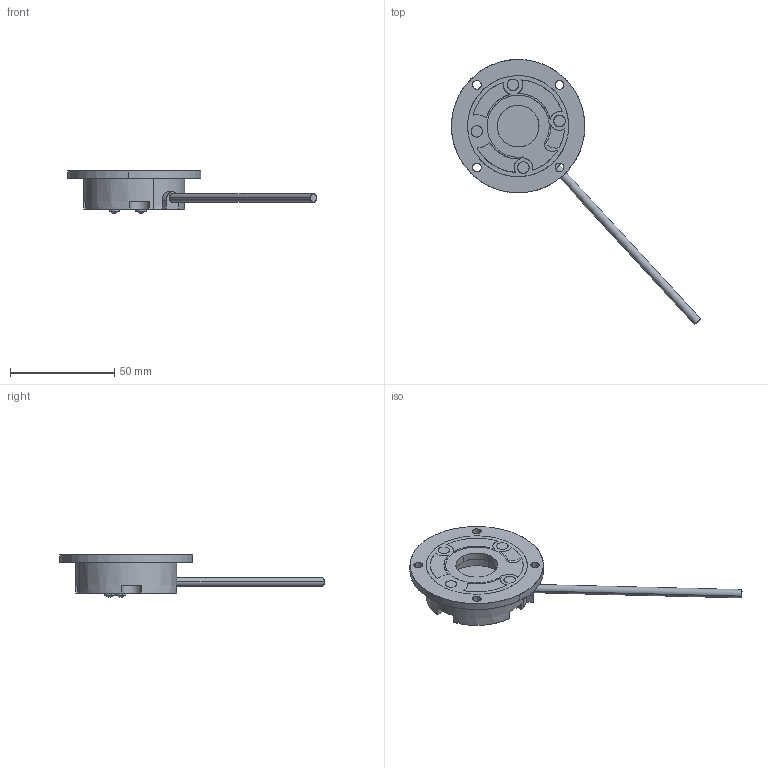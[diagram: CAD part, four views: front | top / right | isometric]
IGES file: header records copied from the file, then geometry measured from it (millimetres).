
Start section: SolidWorks IGES file using analytic representation for surfaces
Global section: file name: C:\Users\Toshiba\Desktop\SU30.IGS; native system: SolidWorks 2014; preprocessor: SolidWorks 2014; author: Toshiba; date: 160621.090043; units: metre
Bounding box: 119.48 x 127.13 x 20.17 mm (x, y, z)
Surface area: 19945.7 mm2 (no closed solid volume)
Topology: 0 solids, 0 shells, 91 faces, 1876 edges, 1876 vertices
Faces by surface type: revolution 59, bspline 32
